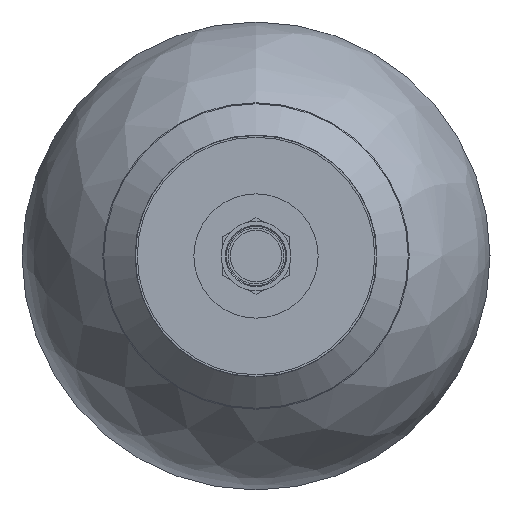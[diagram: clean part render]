
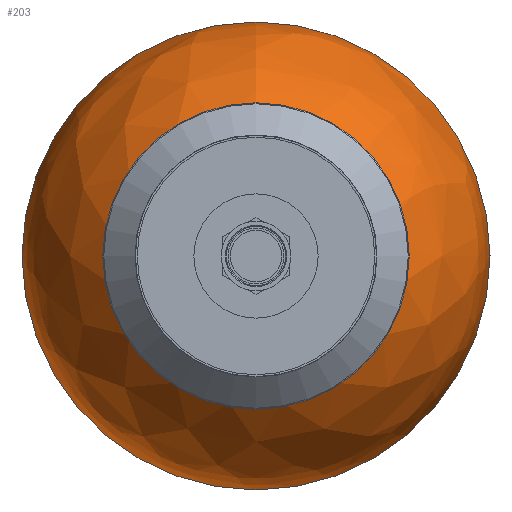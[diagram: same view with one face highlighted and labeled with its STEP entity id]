
A CAD part, front view. The second image highlights one B-rep face of the part: STEP entity #203.
In plain terms, the highlighted free-form (B-spline) face has degree [2, 2] with [3, 9] control points.
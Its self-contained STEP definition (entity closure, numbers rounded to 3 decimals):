
#146=CARTESIAN_POINT('',(-140.659,-49.5,-113.));
#147=CARTESIAN_POINT('',(-226.209,-49.5,-113.));
#148=CARTESIAN_POINT('',(-246.943,-49.5,-30.));
#149=CARTESIAN_POINT('',(-140.659,63.5,-113.));
#150=CARTESIAN_POINT('',(-226.209,63.5,-113.));
#151=CARTESIAN_POINT('',(-246.943,-19.5,-30.));
#152=CARTESIAN_POINT('',(-140.659,63.5,0.));
#153=CARTESIAN_POINT('',(-226.209,63.5,0.));
#154=CARTESIAN_POINT('',(-246.943,-19.5,0.));
#155=CARTESIAN_POINT('',(-140.659,63.5,113.));
#156=CARTESIAN_POINT('',(-226.209,63.5,113.));
#157=CARTESIAN_POINT('',(-246.943,-19.5,30.));
#158=CARTESIAN_POINT('',(-140.659,-49.5,113.));
#159=CARTESIAN_POINT('',(-226.209,-49.5,113.));
#160=CARTESIAN_POINT('',(-246.943,-49.5,30.));
#161=CARTESIAN_POINT('',(-140.659,-162.5,113.));
#162=CARTESIAN_POINT('',(-226.209,-162.5,113.));
#163=CARTESIAN_POINT('',(-246.943,-79.5,30.));
#164=CARTESIAN_POINT('',(-140.659,-162.5,0.));
#165=CARTESIAN_POINT('',(-226.209,-162.5,0.));
#166=CARTESIAN_POINT('',(-246.943,-79.5,0.));
#167=CARTESIAN_POINT('',(-140.659,-162.5,-113.));
#168=CARTESIAN_POINT('',(-226.209,-162.5,-113.));
#169=CARTESIAN_POINT('',(-246.943,-79.5,-30.));
#170=CARTESIAN_POINT('',(-140.659,-49.5,-113.));
#171=CARTESIAN_POINT('',(-226.209,-49.5,-113.));
#172=CARTESIAN_POINT('',(-246.943,-49.5,-30.));
#180=(BOUNDED_SURFACE()B_SPLINE_SURFACE(2,2,((#146,#149,#152,#155,#158,#161,#164,#167,#170),(#147,#150,#153,#156,#159,#162,#165,#168,#171),(#148,#151,#154,#157,#160,#163,#166,#169,#172)),.UNSPECIFIED.,.F.,.T.,.U.)B_SPLINE_SURFACE_WITH_KNOTS((3,3),(3,2,2,2,3),(0.,1.326),(0.0,1.571,3.142,4.712,6.283),.UNSPECIFIED.)GEOMETRIC_REPRESENTATION_ITEM()RATIONAL_B_SPLINE_SURFACE(((1.0,0.707,1.0,0.707,1.0,0.707,1.0,0.707,1.0),(0.788,0.557,0.788,0.557,0.788,0.557,0.788,0.557,0.788),(1.0,0.707,1.0,0.707,1.0,0.707,1.0,0.707,1.0)))REPRESENTATION_ITEM('')SURFACE());
#181=CARTESIAN_POINT('',(-246.943,-19.5,0.0));
#182=VERTEX_POINT('',#181);
#183=CARTESIAN_POINT('',(-246.943,-49.5,0.0));
#184=DIRECTION('',(1.0,0.0,0.0));
#185=DIRECTION('',(0.0,1.0,0.0));
#186=AXIS2_PLACEMENT_3D('',#183,#184,#185);
#187=CIRCLE('',#186,30.0);
#188=EDGE_CURVE('',#182,#182,#187,.T.);
#189=ORIENTED_EDGE('',*,*,#188,.T.);
#190=EDGE_LOOP('',(#189));
#191=FACE_OUTER_BOUND('',#190,.T.);
#192=CARTESIAN_POINT('',(-140.659,-162.5,0.));
#193=VERTEX_POINT('',#192);
#194=CARTESIAN_POINT('',(-140.659,-49.5,0.0));
#195=DIRECTION('',(1.0,0.0,0.0));
#196=DIRECTION('',(0.0,1.0,0.0));
#197=AXIS2_PLACEMENT_3D('',#194,#195,#196);
#198=CIRCLE('',#197,113.0);
#199=EDGE_CURVE('',#193,#193,#198,.T.);
#200=ORIENTED_EDGE('',*,*,#199,.F.);
#201=EDGE_LOOP('',(#200));
#202=FACE_BOUND('',#201,.T.);
#203=ADVANCED_FACE('',(#191,#202),#180,.T.);
